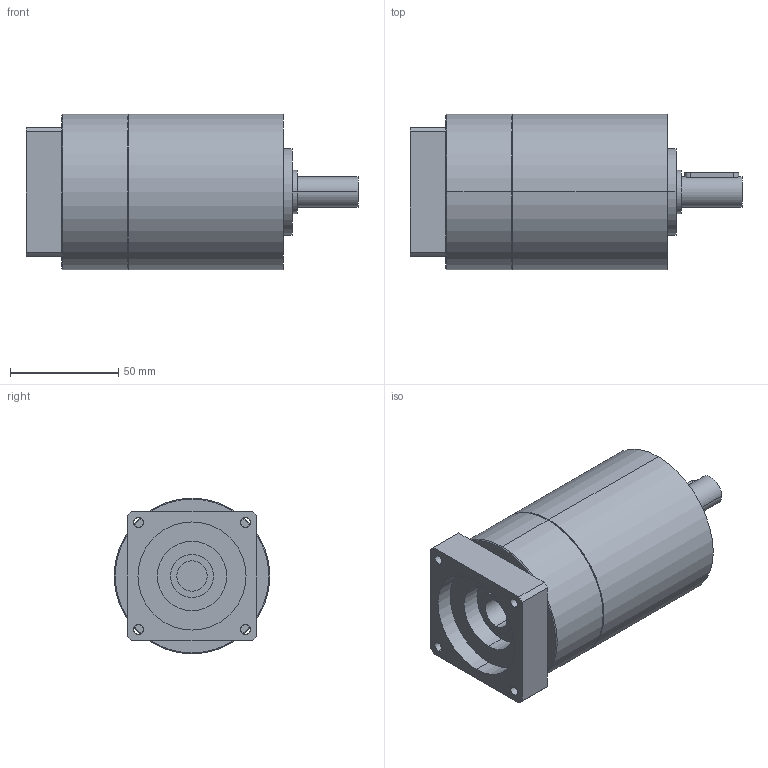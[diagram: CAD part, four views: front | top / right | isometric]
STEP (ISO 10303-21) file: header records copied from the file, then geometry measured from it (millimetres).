
FILE_DESCRIPTION(('CoCreate Modeling STEP Export'),'2;1');
FILE_NAME('GPT75_ig-9-12-16-20-25-28-35-40-50-70-100_14_B14T_14_P17.stp','2014-08-27T13:17:08',(''),(''),'CoCreate Modeling STEP processor for AP214 (Solid Model)','CoCreate Modeling 16.00C 25-Feb-2009 (C) Parametric Technology GmbH','');
FILE_SCHEMA(('AUTOMOTIVE_DESIGN { 1 0 10303 214 1 1 1 1 }'));
Length unit declared in the file: millimetre
Products named in the file (2): GPT75_ig-9-12-16-20-25-28-35-40-50-70-100_14_B14T_14_P17
Assembly tree (1 placements, depth 2):
  GPT75_ig-9-12-16-20-25-28-35-40-50-70-100_14_B14T_14_P17
    GPT75_ig-9-12-16-20-25-28-35-40-50-70-100_14_B14T_14_P17
Bounding box: 153.5 x 72 x 72 mm (x, y, z)
Volume: 458474.7 mm3; surface area: 43161.1 mm2
Topology: 1 solids, 1 shells, 80 faces, 198 edges, 129 vertices
Faces by surface type: cylinder 42, plane 34, cone 4
Entity records: 2353 total; most frequent: CARTESIAN_POINT 689, ORIENTED_EDGE 396, DIRECTION 276, EDGE_CURVE 198, VERTEX_POINT 129, AXIS2_PLACEMENT_3D 104, EDGE_LOOP 97, FACE_OUTER_BOUND 80
